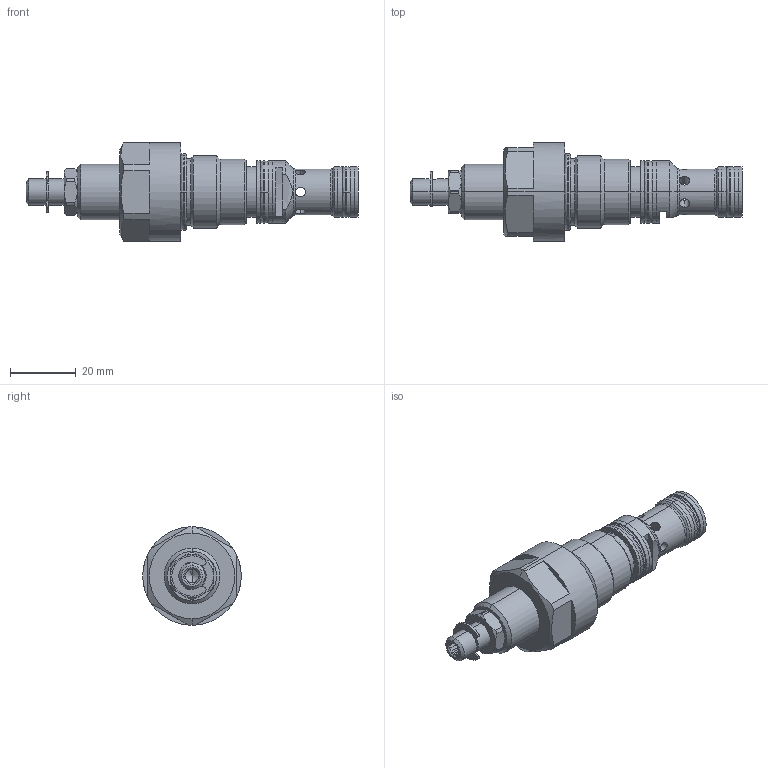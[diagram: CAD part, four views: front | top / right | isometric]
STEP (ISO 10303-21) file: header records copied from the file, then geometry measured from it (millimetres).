
FILE_DESCRIPTION (( 'STEP AP214' ), '1' );
FILE_NAME ('BVSPM22-Z9.STEP', '2017-03-23T07:34:00', ( '' ), ( '' ), 'SwSTEP 2.0', 'SolidWorks 2016', '' );
FILE_SCHEMA (( 'AUTOMOTIVE_DESIGN' ));
Length unit declared in the file: millimetre
Products named in the file (1): BVSPM22-Z9
Bounding box: 101.1 x 30 x 30 mm (x, y, z)
Volume: 29736.5 mm3; surface area: 9967.3 mm2
Topology: 8 solids, 8 shells, 260 faces, 619 edges, 380 vertices
Faces by surface type: cylinder 96, plane 71, cone 43, torus 26, bspline 24
Entity records: 11283 total; most frequent: CARTESIAN_POINT 2347, DIRECTION 1312, ORIENTED_EDGE 1230, EDGE_CURVE 615, AXIS2_PLACEMENT_3D 559, VERTEX_POINT 380, CIRCLE 322, EDGE_LOOP 291
